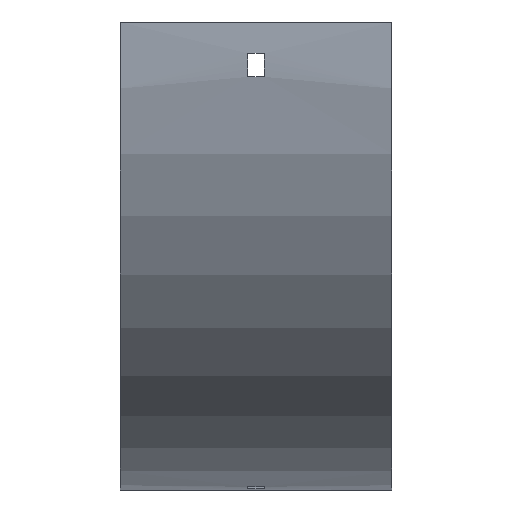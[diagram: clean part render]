
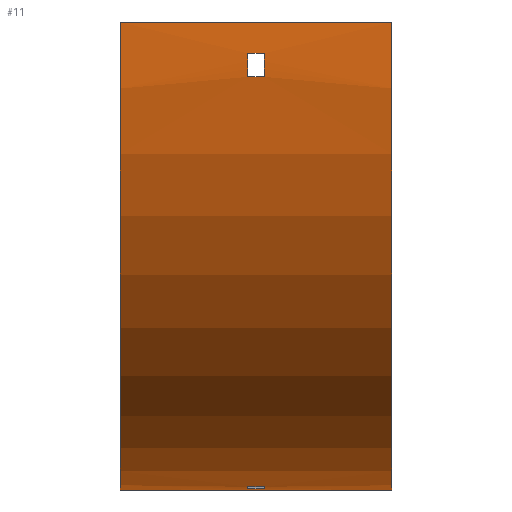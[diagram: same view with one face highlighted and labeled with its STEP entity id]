
A CAD part, front view. The second image highlights one B-rep face of the part: STEP entity #11.
In plain terms, the highlighted cylindrical face has radius 179 mm (diameter 358 mm), a partial arc.
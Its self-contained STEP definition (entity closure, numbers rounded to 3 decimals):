
#3 = CARTESIAN_POINT ( 'NONE',  ( 52., -79., 0. ) ) ;
#11 = ADVANCED_FACE ( 'NONE', ( #689, #45, #560 ), #1600, .T. ) ;
#16 = DIRECTION ( 'NONE',  ( -1., 0., 0. ) ) ;
#23 = CIRCLE ( 'NONE', #989, 179. ) ;
#32 = LINE ( 'NONE', #1184, #740 ) ;
#39 = DIRECTION ( 'NONE',  ( 0., 0., -1. ) ) ;
#43 = CARTESIAN_POINT ( 'NONE',  ( -52., -79., 0. ) ) ;
#45 = FACE_BOUND ( 'NONE', #391, .T. ) ;
#47 = ORIENTED_EDGE ( 'NONE', *, *, #585, .T. ) ;
#79 = DIRECTION ( 'NONE',  ( -1., 0., 0. ) ) ;
#83 = CIRCLE ( 'NONE', #1044, 179. ) ;
#90 = ORIENTED_EDGE ( 'NONE', *, *, #1314, .F. ) ;
#106 = ORIENTED_EDGE ( 'NONE', *, *, #1487, .T. ) ;
#108 = CIRCLE ( 'NONE', #431, 179. ) ;
#125 = EDGE_CURVE ( 'NONE', #493, #1374, #484, .T. ) ;
#137 = EDGE_CURVE ( 'NONE', #614, #397, #719, .T. ) ;
#146 = CARTESIAN_POINT ( 'NONE',  ( 52., 100., -179. ) ) ;
#162 = CIRCLE ( 'NONE', #1393, 179. ) ;
#192 = LINE ( 'NONE', #1486, #1258 ) ;
#207 = DIRECTION ( 'NONE',  ( 0., 0., 1. ) ) ;
#226 = ORIENTED_EDGE ( 'NONE', *, *, #1318, .F. ) ;
#252 = ORIENTED_EDGE ( 'NONE', *, *, #1206, .T. ) ;
#279 = CARTESIAN_POINT ( 'NONE',  ( 52., 100., -179. ) ) ;
#301 = ORIENTED_EDGE ( 'NONE', *, *, #852, .F. ) ;
#303 = DIRECTION ( 'NONE',  ( -1., 0., 0. ) ) ;
#324 = ORIENTED_EDGE ( 'NONE', *, *, #1038, .T. ) ;
#329 = VECTOR ( 'NONE', #1143, 1000. ) ;
#341 = DIRECTION ( 'NONE',  ( 1., 0., 0. ) ) ;
#346 = EDGE_CURVE ( 'NONE', #1681, #1374, #399, .T. ) ;
#347 = AXIS2_PLACEMENT_3D ( 'NONE', #1647, #987, #39 ) ;
#355 = VERTEX_POINT ( 'NONE', #1460 ) ;
#391 = EDGE_LOOP ( 'NONE', ( #1214, #252, #324, #47 ) ) ;
#395 = DIRECTION ( 'NONE',  ( 1., 0., 0. ) ) ;
#397 = VERTEX_POINT ( 'NONE', #1573 ) ;
#399 = LINE ( 'NONE', #146, #1122 ) ;
#426 = DIRECTION ( 'NONE',  ( -1., 0., 0. ) ) ;
#431 = AXIS2_PLACEMENT_3D ( 'NONE', #476, #1160, #1292 ) ;
#448 = DIRECTION ( 'NONE',  ( 0., 0., -1. ) ) ;
#473 = VERTEX_POINT ( 'NONE', #1343 ) ;
#476 = CARTESIAN_POINT ( 'NONE',  ( 3.25, 100., 0. ) ) ;
#479 = DIRECTION ( 'NONE',  ( 1., 0., 0. ) ) ;
#484 = CIRCLE ( 'NONE', #347, 179. ) ;
#493 = VERTEX_POINT ( 'NONE', #43 ) ;
#522 = AXIS2_PLACEMENT_3D ( 'NONE', #1251, #341, #835 ) ;
#560 = FACE_BOUND ( 'NONE', #1463, .T. ) ;
#585 = EDGE_CURVE ( 'NONE', #1062, #662, #108, .T. ) ;
#614 = VERTEX_POINT ( 'NONE', #1267 ) ;
#662 = VERTEX_POINT ( 'NONE', #1011 ) ;
#676 = CARTESIAN_POINT ( 'NONE',  ( 52., 100., 0. ) ) ;
#689 = FACE_OUTER_BOUND ( 'NONE', #1524, .T. ) ;
#705 = CARTESIAN_POINT ( 'NONE',  ( -52., 100., -179. ) ) ;
#719 = LINE ( 'NONE', #1501, #902 ) ;
#727 = DIRECTION ( 'NONE',  ( -1., 0., 0. ) ) ;
#728 = VERTEX_POINT ( 'NONE', #1208 ) ;
#740 = VECTOR ( 'NONE', #1589, 1000. ) ;
#807 = EDGE_CURVE ( 'NONE', #662, #473, #32, .T. ) ;
#835 = DIRECTION ( 'NONE',  ( 0., 1., 0. ) ) ;
#852 = EDGE_CURVE ( 'NONE', #728, #1681, #23, .T. ) ;
#868 = CARTESIAN_POINT ( 'NONE',  ( 3.25, 100., 0. ) ) ;
#899 = AXIS2_PLACEMENT_3D ( 'NONE', #973, #426, #956 ) ;
#902 = VECTOR ( 'NONE', #727, 1000. ) ;
#906 = VECTOR ( 'NONE', #395, 1000. ) ;
#923 = VERTEX_POINT ( 'NONE', #1631 ) ;
#956 = DIRECTION ( 'NONE',  ( 0., 0., 1. ) ) ;
#973 = CARTESIAN_POINT ( 'NONE',  ( 52., 100., 0. ) ) ;
#987 = DIRECTION ( 'NONE',  ( 1., 0., 0. ) ) ;
#989 = AXIS2_PLACEMENT_3D ( 'NONE', #676, #1198, #448 ) ;
#1002 = ORIENTED_EDGE ( 'NONE', *, *, #1359, .F. ) ;
#1011 = CARTESIAN_POINT ( 'NONE',  ( 3.25, -77.764, -21. ) ) ;
#1038 = EDGE_CURVE ( 'NONE', #1426, #1062, #1303, .T. ) ;
#1044 = AXIS2_PLACEMENT_3D ( 'NONE', #868, #79, #207 ) ;
#1062 = VERTEX_POINT ( 'NONE', #1406 ) ;
#1070 = CIRCLE ( 'NONE', #522, 179. ) ;
#1122 = VECTOR ( 'NONE', #16, 1000. ) ;
#1131 = ORIENTED_EDGE ( 'NONE', *, *, #137, .F. ) ;
#1143 = DIRECTION ( 'NONE',  ( -1., 0., 0. ) ) ;
#1160 = DIRECTION ( 'NONE',  ( 1., 0., 0. ) ) ;
#1184 = CARTESIAN_POINT ( 'NONE',  ( 52., -77.764, -21. ) ) ;
#1198 = DIRECTION ( 'NONE',  ( 1., 0., 0. ) ) ;
#1206 = EDGE_CURVE ( 'NONE', #473, #1426, #162, .T. ) ;
#1208 = CARTESIAN_POINT ( 'NONE',  ( 52., -79., 0. ) ) ;
#1214 = ORIENTED_EDGE ( 'NONE', *, *, #807, .T. ) ;
#1240 = ORIENTED_EDGE ( 'NONE', *, *, #125, .T. ) ;
#1251 = CARTESIAN_POINT ( 'NONE',  ( -3.25, 100., 0. ) ) ;
#1258 = VECTOR ( 'NONE', #479, 1000. ) ;
#1267 = CARTESIAN_POINT ( 'NONE',  ( 3.25, 79., -177.764 ) ) ;
#1292 = DIRECTION ( 'NONE',  ( 0., 0., -1. ) ) ;
#1295 = CARTESIAN_POINT ( 'NONE',  ( -3.25, -78.597, -12. ) ) ;
#1303 = LINE ( 'NONE', #1550, #906 ) ;
#1314 = EDGE_CURVE ( 'NONE', #397, #923, #1070, .T. ) ;
#1318 = EDGE_CURVE ( 'NONE', #923, #355, #192, .T. ) ;
#1343 = CARTESIAN_POINT ( 'NONE',  ( -3.25, -77.764, -21. ) ) ;
#1359 = EDGE_CURVE ( 'NONE', #355, #614, #83, .T. ) ;
#1374 = VERTEX_POINT ( 'NONE', #705 ) ;
#1393 = AXIS2_PLACEMENT_3D ( 'NONE', #1471, #303, #1480 ) ;
#1406 = CARTESIAN_POINT ( 'NONE',  ( 3.25, -78.597, -12. ) ) ;
#1426 = VERTEX_POINT ( 'NONE', #1295 ) ;
#1460 = CARTESIAN_POINT ( 'NONE',  ( 3.25, 88., -178.597 ) ) ;
#1463 = EDGE_LOOP ( 'NONE', ( #90, #1131, #1002, #226 ) ) ;
#1471 = CARTESIAN_POINT ( 'NONE',  ( -3.25, 100., 0. ) ) ;
#1480 = DIRECTION ( 'NONE',  ( 0., 0., 1. ) ) ;
#1486 = CARTESIAN_POINT ( 'NONE',  ( 52., 88., -178.597 ) ) ;
#1487 = EDGE_CURVE ( 'NONE', #728, #493, #1670, .T. ) ;
#1501 = CARTESIAN_POINT ( 'NONE',  ( 52., 79., -177.764 ) ) ;
#1524 = EDGE_LOOP ( 'NONE', ( #1240, #1649, #301, #106 ) ) ;
#1550 = CARTESIAN_POINT ( 'NONE',  ( 52., -78.597, -12. ) ) ;
#1573 = CARTESIAN_POINT ( 'NONE',  ( -3.25, 79., -177.764 ) ) ;
#1589 = DIRECTION ( 'NONE',  ( -1., 0., 0. ) ) ;
#1600 = CYLINDRICAL_SURFACE ( 'NONE', #899, 179. ) ;
#1631 = CARTESIAN_POINT ( 'NONE',  ( -3.25, 88., -178.597 ) ) ;
#1647 = CARTESIAN_POINT ( 'NONE',  ( -52., 100., 0. ) ) ;
#1649 = ORIENTED_EDGE ( 'NONE', *, *, #346, .F. ) ;
#1670 = LINE ( 'NONE', #3, #329 ) ;
#1681 = VERTEX_POINT ( 'NONE', #279 ) ;
